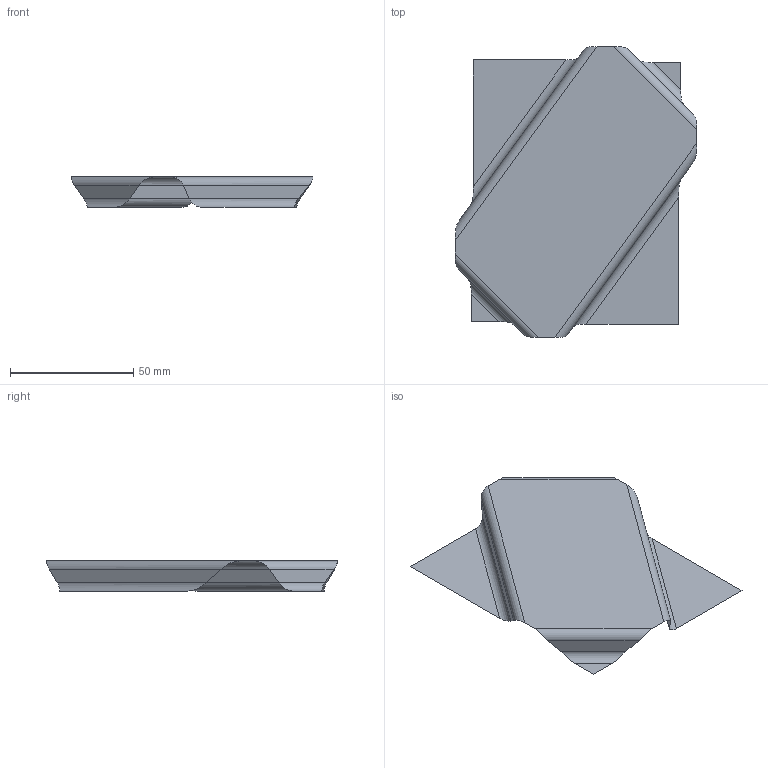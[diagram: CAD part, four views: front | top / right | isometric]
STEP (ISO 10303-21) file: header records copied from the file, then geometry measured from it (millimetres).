
FILE_DESCRIPTION(('CATIA V5 STEP Exchange'),'2;1');
FILE_NAME('C:\_Andres\UNIVERSIDAD\IQS\ASIGNATURAS\DAO\EXF\EXF-15161c\1original\Forés_Garriga_Ej03-chapa_v8.stp','2016-03-04T16:55:46+00:00',('none'),('none'),'CATIA Version 5 Release 20 SP 1 (IN-10)','CATIA V5 STEP AP203','none');
FILE_SCHEMA(('CONFIG_CONTROL_DESIGN'));
Length unit declared in the file: millimetre
Products named in the file (1): Forés_Garriga_Ej03-chapa_v8
Bounding box: 98.01 x 118.01 x 12.29 mm (x, y, z)
Surface area: 11603.2 mm2 (no closed solid volume)
Topology: 0 solids, 1 shells, 17 faces, 52 edges, 36 vertices
Faces by surface type: plane 9, cylinder 8
Entity records: 625 total; most frequent: CARTESIAN_POINT 200, ORIENTED_EDGE 68, DIRECTION 59, EDGE_CURVE 52, VERTEX_POINT 36, B_SPLINE_CURVE_WITH_KNOTS 29, VECTOR 23, LINE 23
